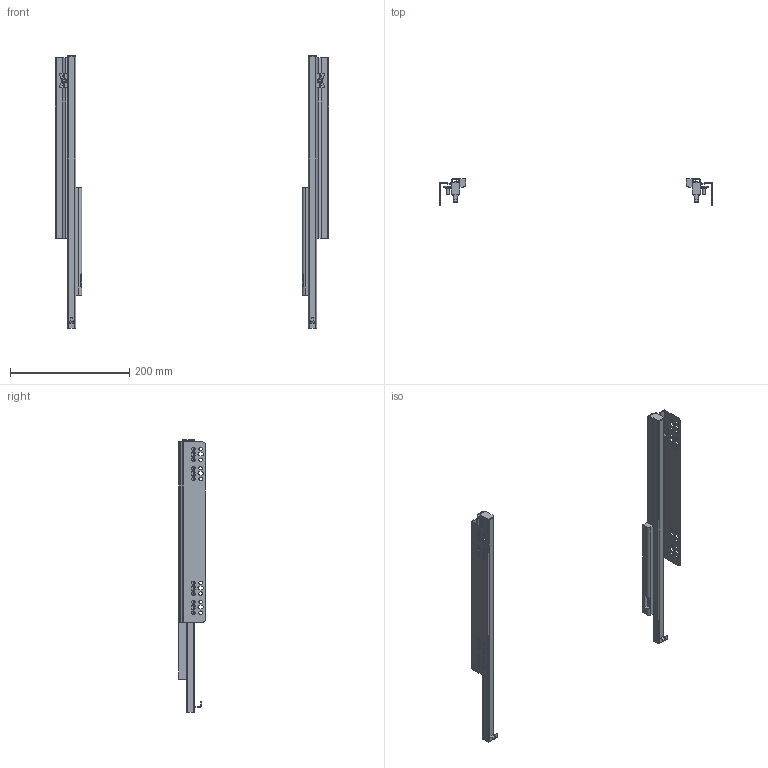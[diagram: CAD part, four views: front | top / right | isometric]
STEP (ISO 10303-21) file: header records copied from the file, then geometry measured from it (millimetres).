
FILE_DESCRIPTION(/* description */ ('Akc'),/* implementation_level */ '2;1');
FILE_NAME(/* name */ 'C:\Users\dmitruk\Documents\WORK\НАПРАВЛЯЮЩИЕ\Скрытого монтажа\Q-Type\Q-Type насадной (16 мм)\Q-Type насадной (16 мм)-450.stp',/* time_stamp */ '2022-04-25T09:43:07+03:00',/* author */ ('dmitruk'),/* organization */ (''),/* preprocessor_version */ 'ST-DEVELOPER v16.5',/* originating_system */ 'Autodesk Inventor 2017',/* authorisation */ '');
FILE_SCHEMA (('AUTOMOTIVE_DESIGN { 1 0 10303 214 3 1 1 }'));
Length unit declared in the file: millimetre
Products named in the file (5): Q-Type насадной (16 \X2\043C
043C\X0\); Q-Type насадной \X2\043E
0441043D043E04320430043D04380435\X0\ L (16 мм); Q-Type насадной \X2\0432
044B04340432043804360435043D04380435\X0\ L; Q-Type насадной \X2\043E
0441043D043E04320430043D04380435\X0\ P (16 мм); Q-Type насадной \X2\0432
044B04340432043804360435043D04380435\X0\ P
Assembly tree (4 placements, depth 2):
  Q-Type насадной (16 \X2\043C
043C\X0\)
    Q-Type насадной \X2\043E
0441043D043E04320430043D04380435\X0\ L (16 мм)
    Q-Type насадной \X2\0432
044B04340432043804360435043D04380435\X0\ L
    Q-Type насадной \X2\043E
0441043D043E04320430043D04380435\X0\ P (16 мм)
    Q-Type насадной \X2\0432
044B04340432043804360435043D04380435\X0\ P
Bounding box: 457.29 x 45 x 457 mm (x, y, z)
Volume: 190281 mm3; surface area: 246563.3 mm2
Topology: 8 solids, 8 shells, 354 faces, 966 edges, 636 vertices
Faces by surface type: plane 212, cylinder 138, bspline 4
Full cylindrical faces by diameter (mm): 3 x4, 5 x2, 6 x32, 9 x2
Entity records: 11825 total; most frequent: CARTESIAN_POINT 2089, DIRECTION 1912, ORIENTED_EDGE 1848, EDGE_CURVE 924, AXIS2_PLACEMENT_3D 641, VERTEX_POINT 634, LINE 630, VECTOR 630
